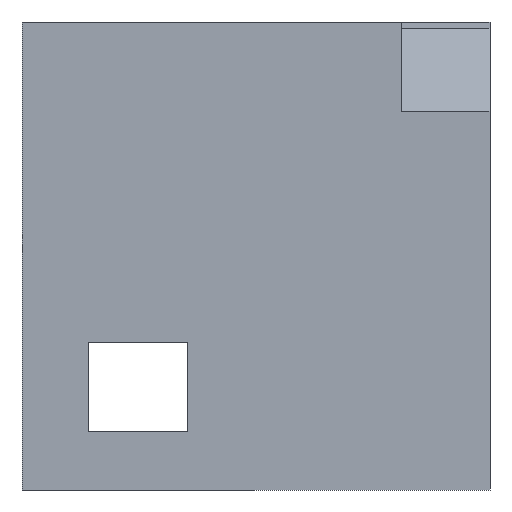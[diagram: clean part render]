
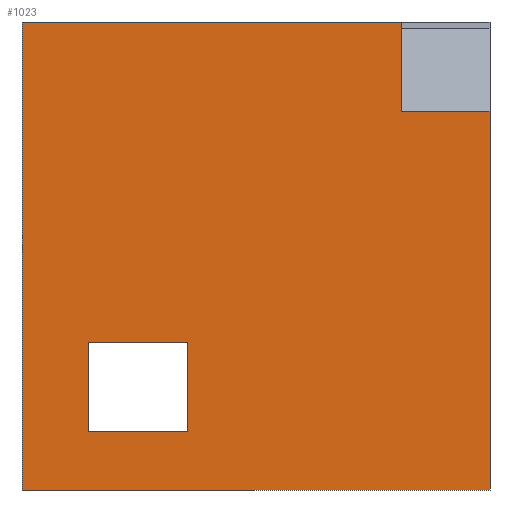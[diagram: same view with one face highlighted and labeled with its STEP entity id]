
A CAD part, front view. The second image highlights one B-rep face of the part: STEP entity #1023.
In plain terms, the highlighted planar face has unit normal (0, -1, 0).
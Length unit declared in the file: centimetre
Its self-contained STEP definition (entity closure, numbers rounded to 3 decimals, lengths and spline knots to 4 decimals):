
#2 = VERTEX_POINT ( 'NONE', #150 ) ;
#7 = EDGE_CURVE ( 'NONE', #858, #104, #464, .T. ) ;
#40 = LINE ( 'NONE', #899, #405 ) ;
#41 = EDGE_CURVE ( 'NONE', #95, #858, #40, .T. ) ;
#42 = CARTESIAN_POINT ( 'NONE',  ( 811.6898, 0., 809.112 ) ) ;
#69 = CARTESIAN_POINT ( 'NONE',  ( 0., 0., 1000. ) ) ;
#95 = VERTEX_POINT ( 'NONE', #681 ) ;
#99 = CARTESIAN_POINT ( 'NONE',  ( 811.6898, 0., 1000. ) ) ;
#104 = VERTEX_POINT ( 'NONE', #889 ) ;
#120 = LINE ( 'NONE', #550, #1321 ) ;
#150 = CARTESIAN_POINT ( 'NONE',  ( 0., 0., 0. ) ) ;
#173 = EDGE_CURVE ( 'NONE', #641, #1067, #576, .T. ) ;
#181 = VECTOR ( 'NONE', #467, 100. ) ;
#202 = LINE ( 'NONE', #780, #718 ) ;
#236 = DIRECTION ( 'NONE',  ( 1., 0., 0. ) ) ;
#264 = DIRECTION ( 'NONE',  ( 1., 0., 0. ) ) ;
#323 = PLANE ( 'NONE',  #1047 ) ;
#361 = EDGE_CURVE ( 'NONE', #863, #95, #1373, .T. ) ;
#386 = LINE ( 'NONE', #490, #1156 ) ;
#395 = ORIENTED_EDGE ( 'NONE', *, *, #445, .T. ) ;
#405 = VECTOR ( 'NONE', #1092, 100. ) ;
#445 = EDGE_CURVE ( 'NONE', #2, #1017, #202, .T. ) ;
#464 = LINE ( 'NONE', #1197, #181 ) ;
#467 = DIRECTION ( 'NONE',  ( 1., 0., 0. ) ) ;
#490 = CARTESIAN_POINT ( 'NONE',  ( 1000., 0., 1000. ) ) ;
#520 = CARTESIAN_POINT ( 'NONE',  ( 0., 0., 1000. ) ) ;
#537 = EDGE_LOOP ( 'NONE', ( #648, #668, #1066, #1044, #1052, #395 ) ) ;
#550 = CARTESIAN_POINT ( 'NONE',  ( 0., 0., 1000. ) ) ;
#573 = EDGE_CURVE ( 'NONE', #1307, #2, #120, .T. ) ;
#576 = LINE ( 'NONE', #42, #1014 ) ;
#578 = CARTESIAN_POINT ( 'NONE',  ( 0., 0., 1000. ) ) ;
#597 = CARTESIAN_POINT ( 'NONE',  ( 811.6898, 0., 809.112 ) ) ;
#627 = DIRECTION ( 'NONE',  ( 0., 0., 1. ) ) ;
#629 = VECTOR ( 'NONE', #747, 100. ) ;
#641 = VERTEX_POINT ( 'NONE', #1202 ) ;
#646 = DIRECTION ( 'NONE',  ( 0., 1., 0. ) ) ;
#648 = ORIENTED_EDGE ( 'NONE', *, *, #999, .F. ) ;
#668 = ORIENTED_EDGE ( 'NONE', *, *, #173, .F. ) ;
#681 = CARTESIAN_POINT ( 'NONE',  ( 142.209, 0., 124.8588 ) ) ;
#691 = VECTOR ( 'NONE', #1327, 100. ) ;
#711 = VECTOR ( 'NONE', #264, 100. ) ;
#718 = VECTOR ( 'NONE', #236, 100. ) ;
#731 = ORIENTED_EDGE ( 'NONE', *, *, #7, .T. ) ;
#747 = DIRECTION ( 'NONE',  ( -1., 0., 0. ) ) ;
#771 = ORIENTED_EDGE ( 'NONE', *, *, #929, .T. ) ;
#780 = CARTESIAN_POINT ( 'NONE',  ( 0., 0., 0. ) ) ;
#799 = DIRECTION ( 'NONE',  ( 1., 0., 0. ) ) ;
#834 = EDGE_CURVE ( 'NONE', #1307, #1110, #1219, .T. ) ;
#858 = VERTEX_POINT ( 'NONE', #1114 ) ;
#863 = VERTEX_POINT ( 'NONE', #1119 ) ;
#889 = CARTESIAN_POINT ( 'NONE',  ( 354.2972, 0., 315.9951 ) ) ;
#899 = CARTESIAN_POINT ( 'NONE',  ( 142.209, 0., 124.8588 ) ) ;
#929 = EDGE_CURVE ( 'NONE', #104, #863, #1238, .T. ) ;
#931 = CARTESIAN_POINT ( 'NONE',  ( 1000., 0., 0. ) ) ;
#938 = DIRECTION ( 'NONE',  ( 0., 0., -1. ) ) ;
#974 = DIRECTION ( 'NONE',  ( 0., 0., -1. ) ) ;
#999 = EDGE_CURVE ( 'NONE', #1067, #1017, #386, .T. ) ;
#1014 = VECTOR ( 'NONE', #799, 100. ) ;
#1017 = VERTEX_POINT ( 'NONE', #931 ) ;
#1023 = ADVANCED_FACE ( 'NONE', ( #1131, #1030 ), #323, .F. ) ;
#1030 = FACE_OUTER_BOUND ( 'NONE', #537, .T. ) ;
#1036 = LINE ( 'NONE', #597, #691 ) ;
#1044 = ORIENTED_EDGE ( 'NONE', *, *, #834, .F. ) ;
#1047 = AXIS2_PLACEMENT_3D ( 'NONE', #520, #646, #627 ) ;
#1050 = CARTESIAN_POINT ( 'NONE',  ( 142.209, 0., 124.8588 ) ) ;
#1052 = ORIENTED_EDGE ( 'NONE', *, *, #573, .T. ) ;
#1063 = CARTESIAN_POINT ( 'NONE',  ( 1000., 0., 809.112 ) ) ;
#1066 = ORIENTED_EDGE ( 'NONE', *, *, #1281, .F. ) ;
#1067 = VERTEX_POINT ( 'NONE', #1063 ) ;
#1092 = DIRECTION ( 'NONE',  ( 0., 0., 1. ) ) ;
#1110 = VERTEX_POINT ( 'NONE', #99 ) ;
#1114 = CARTESIAN_POINT ( 'NONE',  ( 142.209, 0., 315.9951 ) ) ;
#1119 = CARTESIAN_POINT ( 'NONE',  ( 354.2972, 0., 124.8588 ) ) ;
#1130 = ORIENTED_EDGE ( 'NONE', *, *, #41, .T. ) ;
#1131 = FACE_BOUND ( 'NONE', #1145, .T. ) ;
#1137 = DIRECTION ( 'NONE',  ( 0., 0., -1. ) ) ;
#1145 = EDGE_LOOP ( 'NONE', ( #1374, #1130, #731, #771 ) ) ;
#1156 = VECTOR ( 'NONE', #938, 100. ) ;
#1197 = CARTESIAN_POINT ( 'NONE',  ( 142.209, 0., 315.9951 ) ) ;
#1202 = CARTESIAN_POINT ( 'NONE',  ( 811.6898, 0., 809.112 ) ) ;
#1219 = LINE ( 'NONE', #578, #711 ) ;
#1238 = LINE ( 'NONE', #1337, #1290 ) ;
#1281 = EDGE_CURVE ( 'NONE', #1110, #641, #1036, .T. ) ;
#1290 = VECTOR ( 'NONE', #1137, 100. ) ;
#1307 = VERTEX_POINT ( 'NONE', #69 ) ;
#1321 = VECTOR ( 'NONE', #974, 100. ) ;
#1327 = DIRECTION ( 'NONE',  ( 0., 0., -1. ) ) ;
#1337 = CARTESIAN_POINT ( 'NONE',  ( 354.2972, 0., 124.8588 ) ) ;
#1373 = LINE ( 'NONE', #1050, #629 ) ;
#1374 = ORIENTED_EDGE ( 'NONE', *, *, #361, .T. ) ;
